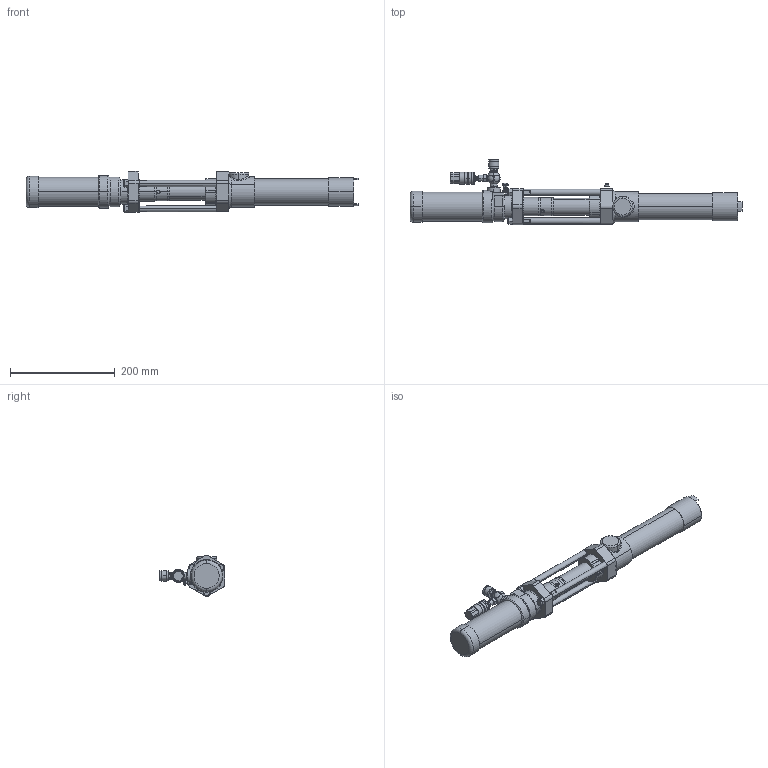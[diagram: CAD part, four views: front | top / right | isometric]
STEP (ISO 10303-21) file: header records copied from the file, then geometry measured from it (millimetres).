
FILE_DESCRIPTION((''),'2;1');
FILE_NAME('226948-EN-ZAD_PRT','2022-02-14T11:20:59',('qtmwp1'),(''),'CREO PARAMETRIC BY PTC INC, 2021072','CREO PARAMETRIC BY PTC INC, 2021072','');
FILE_SCHEMA(('CONFIG_CONTROL_DESIGN'));
Length unit declared in the file: inch
Products named in the file (1): 226948-EN-ZAD_PRT
Bounding box: 634.52 x 125 x 78.4 mm (x, y, z)
Surface area: 217793.7 mm2 (no closed solid volume)
Topology: 0 solids, 57 shells, 421 faces, 1175 edges, 765 vertices
Faces by surface type: plane 163, cylinder 145, cone 79, torus 21, sphere 6, bspline 5, revolution 2
Entity records: 14927 total; most frequent: CARTESIAN_POINT 4518, DIRECTION 2226, ORIENTED_EDGE 1961, EDGE_CURVE 1175, AXIS2_PLACEMENT_3D 875, VERTEX_POINT 765, VECTOR 474, LINE 474
